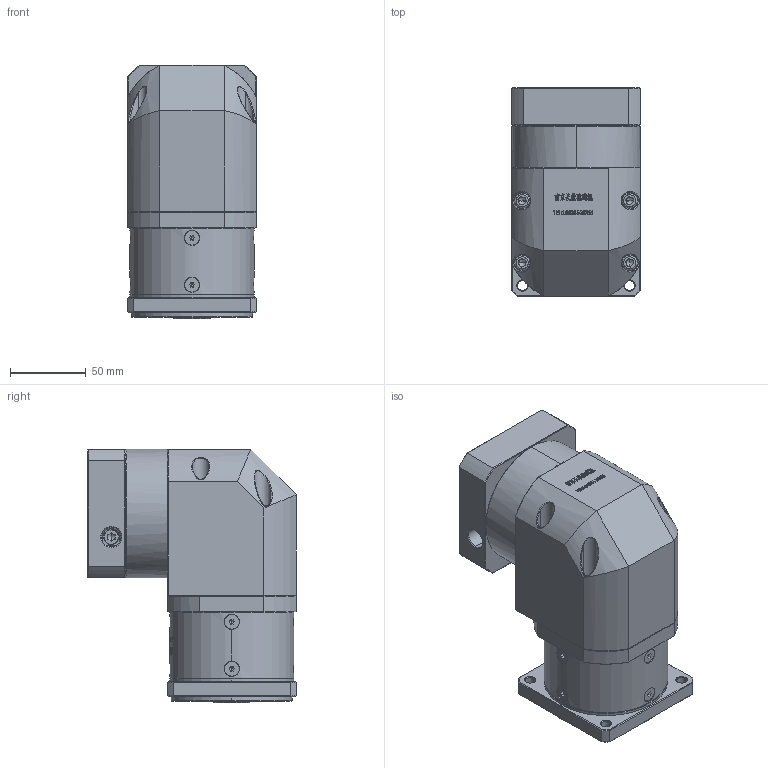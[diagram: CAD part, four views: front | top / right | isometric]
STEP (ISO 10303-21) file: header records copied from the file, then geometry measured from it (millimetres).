
FILE_DESCRIPTION (( 'STEP AP214' ), '1' );
FILE_NAME ('ZFR80-K15-L1-19-70-90-M6.step', '2022-05-08T12:07:59', ( '' ), ( 'Microsoft' ), 'SwSTEP 2.0', 'SolidWorks 2016', '' );
FILE_SCHEMA (( 'AUTOMOTIVE_DESIGN' ));
Length unit declared in the file: millimetre
Products named in the file (1): ZFR80-K15-L1-19-70-90-M6
Bounding box: 85 x 137.6 x 167.5 mm (x, y, z)
Volume: 1238326 mm3; surface area: 133945.6 mm2
Topology: 13 solids, 13 shells, 3010 faces, 7914 edges, 5051 vertices
Faces by surface type: plane 1612, bspline 614, cylinder 416, cone 354, torus 14
Entity records: 158941 total; most frequent: CARTESIAN_POINT 57081, ORIENTED_EDGE 15740, DIRECTION 11871, EDGE_CURVE 7870, VERTEX_POINT 5051, LINE 4927, VECTOR 4927, AXIS2_PLACEMENT_3D 3472
